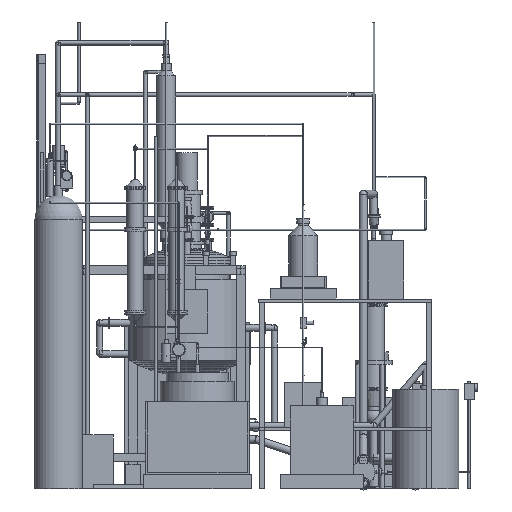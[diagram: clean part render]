
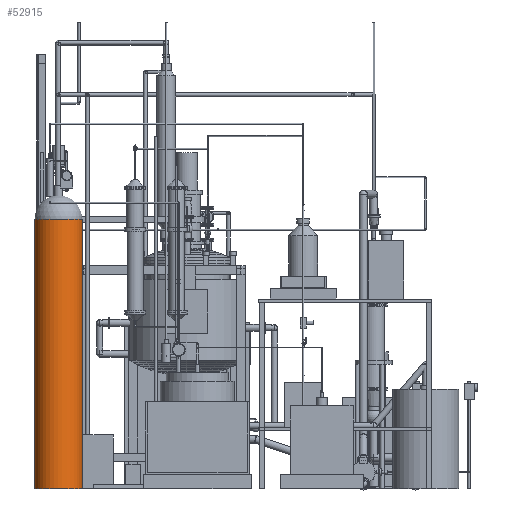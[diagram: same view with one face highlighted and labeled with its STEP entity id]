
A CAD part, left-side view. The second image highlights one B-rep face of the part: STEP entity #52915.
In plain terms, the highlighted cylindrical face has radius 115 mm (diameter 230 mm), a full revolution.
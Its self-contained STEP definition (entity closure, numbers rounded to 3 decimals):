
#52915 = ADVANCED_FACE('',(#52916),#52929,.T.);
#52916 = FACE_BOUND('',#52917,.T.);
#52917 = EDGE_LOOP('',(#52918,#52952,#52975,#53002));
#52918 = ORIENTED_EDGE('',*,*,#52919,.F.);
#52919 = EDGE_CURVE('',#52920,#52920,#52922,.T.);
#52920 = VERTEX_POINT('',#52921);
#52921 = CARTESIAN_POINT('',(-785.,620.,1300.));
#52922 = SURFACE_CURVE('',#52923,(#52928,#52940),.PCURVE_S1.);
#52923 = CIRCLE('',#52924,115.);
#52924 = AXIS2_PLACEMENT_3D('',#52925,#52926,#52927);
#52925 = CARTESIAN_POINT('',(-900.,620.,1300.));
#52926 = DIRECTION('',(0.,0.,1.));
#52927 = DIRECTION('',(1.,0.,-0.));
#52928 = PCURVE('',#52929,#52934);
#52929 = CYLINDRICAL_SURFACE('',#52930,115.);
#52930 = AXIS2_PLACEMENT_3D('',#52931,#52932,#52933);
#52931 = CARTESIAN_POINT('',(-900.,620.,0.));
#52932 = DIRECTION('',(0.,0.,1.));
#52933 = DIRECTION('',(1.,0.,-0.));
#52934 = DEFINITIONAL_REPRESENTATION('',(#52935),#52939);
#52935 = LINE('',#52936,#52937);
#52936 = CARTESIAN_POINT('',(0.,1300.));
#52937 = VECTOR('',#52938,1.);
#52938 = DIRECTION('',(1.,0.));
#52939 = ( GEOMETRIC_REPRESENTATION_CONTEXT(2) 
PARAMETRIC_REPRESENTATION_CONTEXT() REPRESENTATION_CONTEXT('2D SPACE',''
  ) );
#52940 = PCURVE('',#52941,#52946);
#52941 = PLANE('',#52942);
#52942 = AXIS2_PLACEMENT_3D('',#52943,#52944,#52945);
#52943 = CARTESIAN_POINT('',(-900.,620.,1300.));
#52944 = DIRECTION('',(0.,0.,1.));
#52945 = DIRECTION('',(1.,0.,-0.));
#52946 = DEFINITIONAL_REPRESENTATION('',(#52947),#52951);
#52947 = CIRCLE('',#52948,115.);
#52948 = AXIS2_PLACEMENT_2D('',#52949,#52950);
#52949 = CARTESIAN_POINT('',(0.,0.));
#52950 = DIRECTION('',(1.,0.));
#52951 = ( GEOMETRIC_REPRESENTATION_CONTEXT(2) 
PARAMETRIC_REPRESENTATION_CONTEXT() REPRESENTATION_CONTEXT('2D SPACE',''
  ) );
#52952 = ORIENTED_EDGE('',*,*,#52953,.F.);
#52953 = EDGE_CURVE('',#52954,#52920,#52956,.T.);
#52954 = VERTEX_POINT('',#52955);
#52955 = CARTESIAN_POINT('',(-785.,620.,0.));
#52956 = SEAM_CURVE('',#52957,(#52961,#52968),.PCURVE_S1.);
#52957 = LINE('',#52958,#52959);
#52958 = CARTESIAN_POINT('',(-785.,620.,0.));
#52959 = VECTOR('',#52960,1.);
#52960 = DIRECTION('',(0.,0.,1.));
#52961 = PCURVE('',#52929,#52962);
#52962 = DEFINITIONAL_REPRESENTATION('',(#52963),#52967);
#52963 = LINE('',#52964,#52965);
#52964 = CARTESIAN_POINT('',(6.283,-0.));
#52965 = VECTOR('',#52966,1.);
#52966 = DIRECTION('',(0.,1.));
#52967 = ( GEOMETRIC_REPRESENTATION_CONTEXT(2) 
PARAMETRIC_REPRESENTATION_CONTEXT() REPRESENTATION_CONTEXT('2D SPACE',''
  ) );
#52968 = PCURVE('',#52929,#52969);
#52969 = DEFINITIONAL_REPRESENTATION('',(#52970),#52974);
#52970 = LINE('',#52971,#52972);
#52971 = CARTESIAN_POINT('',(0.,-0.));
#52972 = VECTOR('',#52973,1.);
#52973 = DIRECTION('',(0.,1.));
#52974 = ( GEOMETRIC_REPRESENTATION_CONTEXT(2) 
PARAMETRIC_REPRESENTATION_CONTEXT() REPRESENTATION_CONTEXT('2D SPACE',''
  ) );
#52975 = ORIENTED_EDGE('',*,*,#52976,.T.);
#52976 = EDGE_CURVE('',#52954,#52954,#52977,.T.);
#52977 = SURFACE_CURVE('',#52978,(#52983,#52990),.PCURVE_S1.);
#52978 = CIRCLE('',#52979,115.);
#52979 = AXIS2_PLACEMENT_3D('',#52980,#52981,#52982);
#52980 = CARTESIAN_POINT('',(-900.,620.,0.));
#52981 = DIRECTION('',(0.,0.,1.));
#52982 = DIRECTION('',(1.,0.,-0.));
#52983 = PCURVE('',#52929,#52984);
#52984 = DEFINITIONAL_REPRESENTATION('',(#52985),#52989);
#52985 = LINE('',#52986,#52987);
#52986 = CARTESIAN_POINT('',(0.,0.));
#52987 = VECTOR('',#52988,1.);
#52988 = DIRECTION('',(1.,0.));
#52989 = ( GEOMETRIC_REPRESENTATION_CONTEXT(2) 
PARAMETRIC_REPRESENTATION_CONTEXT() REPRESENTATION_CONTEXT('2D SPACE',''
  ) );
#52990 = PCURVE('',#52991,#52996);
#52991 = PLANE('',#52992);
#52992 = AXIS2_PLACEMENT_3D('',#52993,#52994,#52995);
#52993 = CARTESIAN_POINT('',(-900.,620.,0.));
#52994 = DIRECTION('',(0.,0.,1.));
#52995 = DIRECTION('',(1.,0.,-0.));
#52996 = DEFINITIONAL_REPRESENTATION('',(#52997),#53001);
#52997 = CIRCLE('',#52998,115.);
#52998 = AXIS2_PLACEMENT_2D('',#52999,#53000);
#52999 = CARTESIAN_POINT('',(0.,0.));
#53000 = DIRECTION('',(1.,0.));
#53001 = ( GEOMETRIC_REPRESENTATION_CONTEXT(2) 
PARAMETRIC_REPRESENTATION_CONTEXT() REPRESENTATION_CONTEXT('2D SPACE',''
  ) );
#53002 = ORIENTED_EDGE('',*,*,#52953,.T.);
